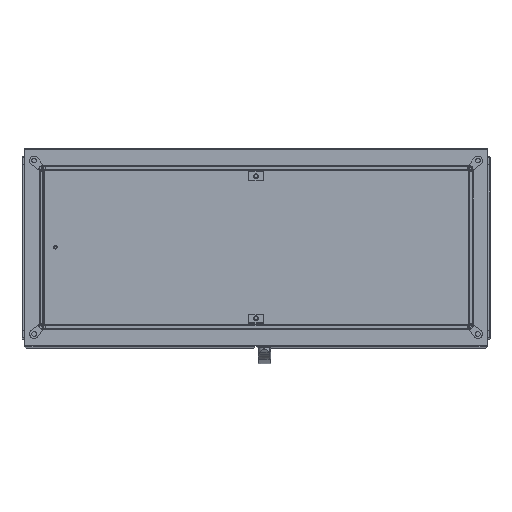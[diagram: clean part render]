
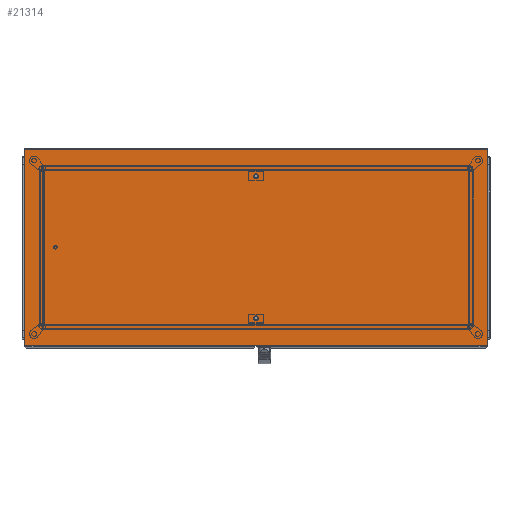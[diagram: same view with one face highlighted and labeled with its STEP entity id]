
A CAD part, top view. The second image highlights one B-rep face of the part: STEP entity #21314.
In plain terms, the highlighted planar face has unit normal (0, 0, 1) as drawn and (0, -1, 0) by its records, which use the part's own axes.
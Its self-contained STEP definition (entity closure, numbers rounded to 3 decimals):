
#1368=CIRCLE('',#23263,6.318);
#1369=CIRCLE('',#23264,6.318);
#6124=ORIENTED_EDGE('',*,*,#10080,.F.);
#6125=ORIENTED_EDGE('',*,*,#10093,.F.);
#6126=ORIENTED_EDGE('',*,*,#10039,.F.);
#6127=ORIENTED_EDGE('',*,*,#10086,.F.);
#6128=ORIENTED_EDGE('',*,*,#10100,.F.);
#6129=ORIENTED_EDGE('',*,*,#10101,.F.);
#10039=EDGE_CURVE('',#12369,#12370,#14443,.T.);
#10080=EDGE_CURVE('',#12404,#12405,#14473,.T.);
#10086=EDGE_CURVE('',#12405,#12369,#14478,.T.);
#10093=EDGE_CURVE('',#12370,#12404,#14485,.T.);
#10100=EDGE_CURVE('',#12418,#12418,#1368,.T.);
#10101=EDGE_CURVE('',#12419,#12419,#1369,.T.);
#12369=VERTEX_POINT('',#35119);
#12370=VERTEX_POINT('',#35121);
#12404=VERTEX_POINT('',#35199);
#12405=VERTEX_POINT('',#35201);
#12418=VERTEX_POINT('',#35237);
#12419=VERTEX_POINT('',#35239);
#14443=LINE('',#35120,#16540);
#14473=LINE('',#35200,#16570);
#14478=LINE('',#35212,#16575);
#14485=LINE('',#35224,#16582);
#16540=VECTOR('',#28313,1000.);
#16570=VECTOR('',#28373,1000.);
#16575=VECTOR('',#28382,1000.);
#16582=VECTOR('',#28391,1000.);
#18061=EDGE_LOOP('',(#6124,#6125,#6126,#6127));
#18062=EDGE_LOOP('',(#6128));
#18063=EDGE_LOOP('',(#6129));
#19380=FACE_BOUND('',#18061,.T.);
#19381=FACE_BOUND('',#18062,.T.);
#19382=FACE_BOUND('',#18063,.T.);
#20260=PLANE('',#23262);
#21314=ADVANCED_FACE('',(#19380,#19381,#19382),#20260,.F.);
#23262=AXIS2_PLACEMENT_3D('',#35235,#28398,#28399);
#23263=AXIS2_PLACEMENT_3D('',#35236,#28400,#28401);
#23264=AXIS2_PLACEMENT_3D('',#35238,#28402,#28403);
#28313=DIRECTION('',(1.,0.,0.));
#28373=DIRECTION('',(-1.,0.,0.));
#28382=DIRECTION('',(0.,0.,1.));
#28391=DIRECTION('',(0.,0.,-1.));
#28398=DIRECTION('',(0.,1.,0.));
#28399=DIRECTION('',(0.,0.,1.));
#28400=DIRECTION('',(0.,-1.,0.));
#28401=DIRECTION('',(0.,0.,-1.));
#28402=DIRECTION('',(0.,-1.,0.));
#28403=DIRECTION('',(0.,0.,-1.));
#35119=CARTESIAN_POINT('',(-599.5,0.,255.5));
#35120=CARTESIAN_POINT('',(-599.5,0.,255.5));
#35121=CARTESIAN_POINT('',(599.5,0.,255.5));
#35199=CARTESIAN_POINT('',(599.5,0.,-255.5));
#35200=CARTESIAN_POINT('',(599.5,0.,-255.5));
#35201=CARTESIAN_POINT('',(-599.5,0.,-255.5));
#35212=CARTESIAN_POINT('',(-599.5,0.,-255.5));
#35224=CARTESIAN_POINT('',(599.5,0.,255.5));
#35235=CARTESIAN_POINT('',(0.,0.,0.));
#35236=CARTESIAN_POINT('',(0.,0.,184.));
#35237=CARTESIAN_POINT('',(0.,0.,177.682));
#35238=CARTESIAN_POINT('',(0.,0.,-184.));
#35239=CARTESIAN_POINT('',(0.,0.,-190.318));
